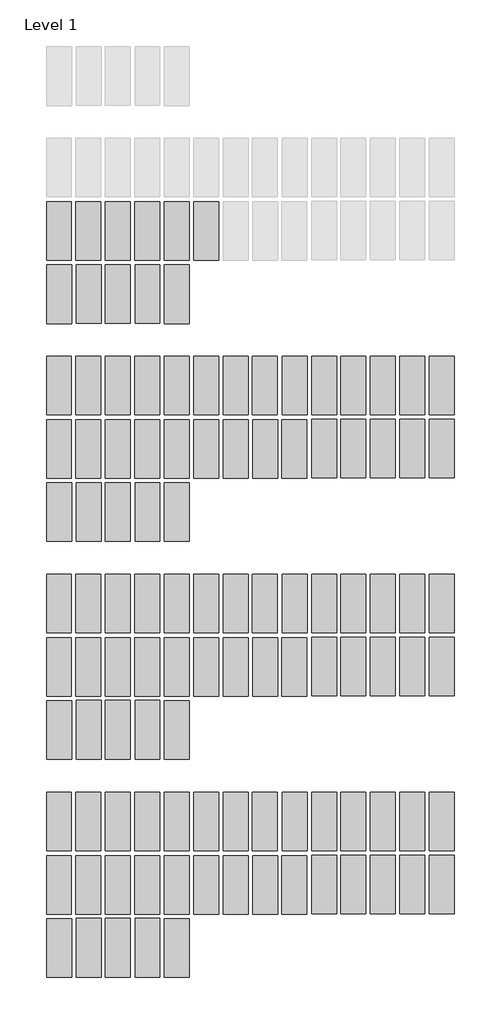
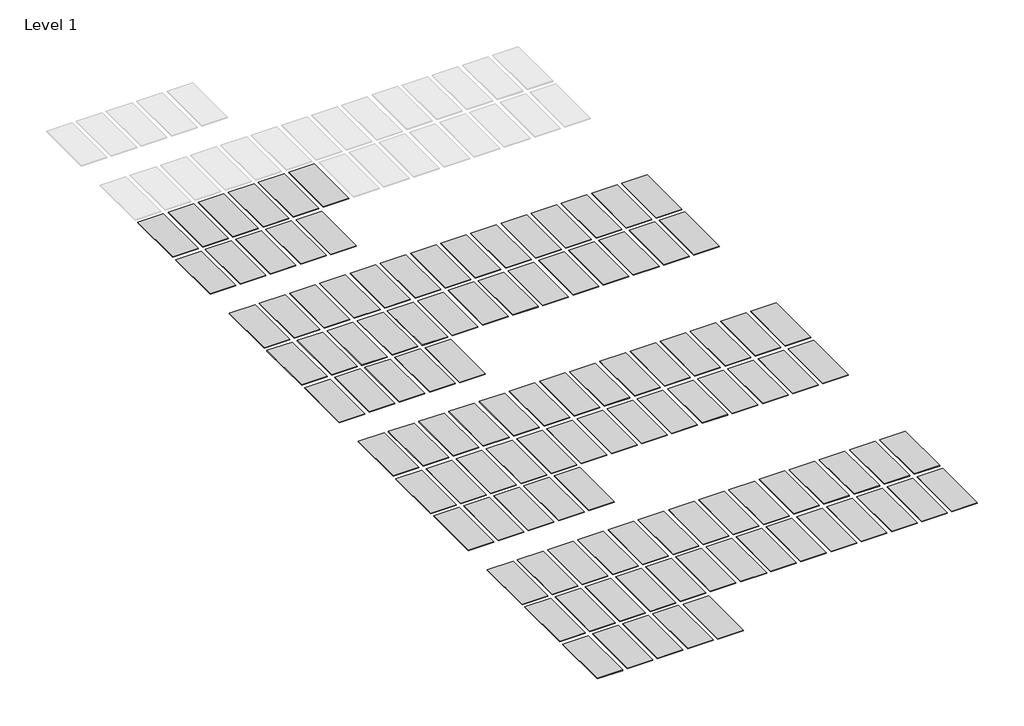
# One storey, part 1 of 3: 110 proxies.
"""IFC4 building model written with IfcOpenShell, lengths in millimetres."""

import ifcopenshell
import ifcopenshell.guid

model = None  # the IFC model being written
_history = None  # IfcOwnerHistory: only IFC2X3 demands one
_inside = {}  # id of a spatial element -> (the spatial element, [elements in it])
_under = {}  # id of a project, library or spatial element -> (it, [spatial elements below it])
_declared = {}  # id of a project -> (the project, [libraries it declares])
_typed = {}  # id of a type object -> (the type object, [elements of that type])
_made_of = {}  # id of a material, layer set ... -> (it, [elements and type objects made of it])


def new_model(schema):
    """Start an empty IFC model of exactly this schema.

    Asked for "IFC4X3", IfcOpenShell would pick the latest addendum, in which some entities
    have other attributes; the version numbers below select the first issue.
    IFC2X3 requires an IfcOwnerHistory on every rooted entity: one is made here for all.
    """
    global model, _history
    if schema == "IFC4X3":
        model = ifcopenshell.file(schema_version=(4, 3, 0, 0))
    else:
        model = ifcopenshell.file(schema=schema)
    _inside.clear()
    _under.clear()
    _declared.clear()
    _typed.clear()
    _made_of.clear()
    _history = None
    if model.schema == "IFC2X3":
        org = make("IfcOrganization", Name="unknown")
        user = make(
            "IfcPersonAndOrganization",
            ThePerson=make("IfcPerson", FamilyName="unknown"),
            TheOrganization=org,
        )
        app = make(
            "IfcApplication",
            ApplicationDeveloper=org,
            Version="unknown",
            ApplicationFullName="unknown",
            ApplicationIdentifier="unknown",
        )
        _history = make(
            "IfcOwnerHistory",
            OwningUser=user,
            OwningApplication=app,
            ChangeAction="ADDED",
            CreationDate=0,
        )
    return model


def make(cls, **values):
    """One entity of the class cls with the attributes given. An attribute that is None is left unset."""
    return model.create_entity(
        cls, **{name: value for name, value in values.items() if value is not None}
    )


def rooted(cls, **values):
    """An entity with a GlobalId (a new one), such as an element, a storey or a relation."""
    return make(cls, GlobalId=ifcopenshell.guid.new(), OwnerHistory=_history, **values)


def si_unit(unit_type, name, prefix=None):
    """IfcSIUnit, for example si_unit("LENGTHUNIT", "METRE", prefix="MILLI")."""
    return make("IfcSIUnit", UnitType=unit_type, Prefix=prefix, Name=name)


def assignment(units):
    """IfcUnitAssignment: the units of a project."""
    return None if units is None else make("IfcUnitAssignment", Units=units)


def point(xyz):
    """IfcCartesianPoint."""
    return None if xyz is None else make("IfcCartesianPoint", Coordinates=xyz)


def direction(xyz):
    """IfcDirection."""
    return None if xyz is None else make("IfcDirection", DirectionRatios=xyz)


def frame(location, z_axis=None, x_axis=None):
    """IfcAxis2Placement3D, a coordinate frame: its origin and axes. An axis left out is left unset."""
    return make(
        "IfcAxis2Placement3D",
        Location=point(location),
        Axis=direction(z_axis),
        RefDirection=direction(x_axis),
    )


def origin():
    """The frame at (0, 0, 0) with its axes left unset."""
    return frame((0.0, 0.0, 0.0))


def origin_with_axes():
    """The frame at (0, 0, 0) with the z axis (0, 0, 1) and the x axis (1, 0, 0) written out."""
    return frame((0.0, 0.0, 0.0), z_axis=(0.0, 0.0, 1.0), x_axis=(1.0, 0.0, 0.0))


def place(relative_to, where):
    """IfcLocalPlacement: puts the frame where relative to a parent placement (None: the world)."""
    return make(
        "IfcLocalPlacement", PlacementRelTo=relative_to, RelativePlacement=where
    )


def context(
    kind, dimensions, precision=None, world=None, true_north=None, identifier=None
):
    """IfcGeometricRepresentationContext, for example the 3D "Model" context."""
    return make(
        "IfcGeometricRepresentationContext",
        ContextIdentifier=identifier,
        ContextType=kind,
        CoordinateSpaceDimension=dimensions,
        Precision=precision,
        WorldCoordinateSystem=world,
        TrueNorth=true_north,
    )


def project(units=None, contexts=None):
    """IfcProject with its units and contexts."""
    return rooted(
        "IfcProject",
        Name="project",
        RepresentationContexts=contexts,
        UnitsInContext=assignment(units),
    )


def spatial(cls, under=None, at=None, **own):
    """A site, building, storey or space (cls), placed at a placement, below another one or the project."""
    s = rooted(cls, ObjectPlacement=at, **own)
    if under is not None:
        _under.setdefault(under.id(), (under, []))[1].append(s)
    return s


def polyline(points):
    """IfcPolyline through the points."""
    return make("IfcPolyline", Points=[point(p) for p in points])


def outline(outer, holes=None, kind="AREA"):
    """IfcArbitraryClosedProfileDef: a profile drawn as a closed curve; with holes, ...WithVoids."""
    if holes is None:
        return make("IfcArbitraryClosedProfileDef", ProfileType=kind, OuterCurve=outer)
    return make(
        "IfcArbitraryProfileDefWithVoids",
        ProfileType=kind,
        OuterCurve=outer,
        InnerCurves=holes,
    )


def extrude(swept, where, along, depth):
    """IfcExtrudedAreaSolid: the profile swept, set in the frame where, extruded along a direction by depth."""
    return make(
        "IfcExtrudedAreaSolid",
        SweptArea=swept,
        Position=where,
        ExtrudedDirection=direction(along),
        Depth=depth,
    )


def shape(context_of_items, identifier, shape_type, items):
    """IfcShapeRepresentation: the items that make up one representation, for example the "Body"."""
    return make(
        "IfcShapeRepresentation",
        ContextOfItems=context_of_items,
        RepresentationIdentifier=identifier,
        RepresentationType=shape_type,
        Items=items,
    )


def source(mapping_origin, context_of_items, identifier, shape_type, items):
    """IfcRepresentationMap: a shape defined once, which mapped items show again and again."""
    return make(
        "IfcRepresentationMap",
        MappingOrigin=mapping_origin,
        MappedRepresentation=shape(context_of_items, identifier, shape_type, items),
    )


def transform(
    local_origin,
    x_axis=None,
    y_axis=None,
    z_axis=None,
    scale=None,
    scale2=None,
    scale3=None,
    uniform=True,
):
    """IfcCartesianTransformationOperator3D, or its non-uniform kind. x_axis, y_axis, z_axis: its Axis1, 2, 3."""
    if uniform:
        return make(
            "IfcCartesianTransformationOperator3D",
            Axis1=direction(x_axis),
            Axis2=direction(y_axis),
            LocalOrigin=point(local_origin),
            Scale=scale,
            Axis3=direction(z_axis),
        )
    return make(
        "IfcCartesianTransformationOperator3DnonUniform",
        Axis1=direction(x_axis),
        Axis2=direction(y_axis),
        LocalOrigin=point(local_origin),
        Scale=scale,
        Axis3=direction(z_axis),
        Scale2=scale2,
        Scale3=scale3,
    )


def mapped(mapping_source, mapping_target):
    """IfcMappedItem: shows the shape of a source again, moved by a transform."""
    return make(
        "IfcMappedItem", MappingSource=mapping_source, MappingTarget=mapping_target
    )


def made_of(thing, what):
    """Note that an element or type object is made of a material, layer set ...; save() writes the relation."""
    if what is not None:
        _made_of.setdefault(what.id(), (what, []))[1].append(thing)
    return thing


def element(
    cls,
    number,
    at=None,
    inside=None,
    cuts=None,
    type_object=None,
    material=None,
    context=None,
    identifier="Body",
    shape_type=None,
    held_by="IfcProductDefinitionShape",
    body=None,
    shapes=None,
    **own,
):
    """One element of the class cls, such as IfcWall. Its Tag is "e" and its number.

    at: its placement. inside: the storey or other place that contains it. cuts: it is an
    opening in that element (IfcRelVoidsElement). A single representation is given by context,
    identifier, shape_type and body (its items); several are given by shapes. held_by: the class
    of the entity that holds the representations. save() writes the other relations.
    """
    e = rooted(cls, Tag="e%d" % number, ObjectPlacement=at, **own)
    if body is not None:
        shapes = [shape(context, identifier, shape_type, body)]
    if shapes is not None:
        e.Representation = make(held_by, Representations=shapes)
    if inside is not None:
        _inside.setdefault(inside.id(), (inside, []))[1].append(e)
    if cuts is not None:
        rooted(
            "IfcRelVoidsElement", RelatingBuildingElement=cuts, RelatedOpeningElement=e
        )
    if type_object is not None:
        _typed.setdefault(type_object.id(), (type_object, []))[1].append(e)
    return made_of(e, material)


def aggregate(whole, parts):
    """IfcRelAggregates: a whole, such as a stair, and the parts it consists of."""
    return rooted("IfcRelAggregates", RelatingObject=whole, RelatedObjects=parts)


def save(model, path):
    """Write the relations noted so far, then the file.

    IfcRelAggregates (storeys below a building ...), IfcRelContainedInSpatialStructure (elements
    in a storey), IfcRelDefinesByType, IfcRelAssociatesMaterial and IfcRelDeclares: one each for
    every whole, place, type object, material and project.
    """
    for whole, parts in _under.values():
        aggregate(whole, parts)
    for where, things in _inside.values():
        rooted(
            "IfcRelContainedInSpatialStructure",
            RelatedElements=things,
            RelatingStructure=where,
        )
    for kind, things in _typed.values():
        rooted("IfcRelDefinesByType", RelatedObjects=things, RelatingType=kind)
    for what, things in _made_of.values():
        rooted("IfcRelAssociatesMaterial", RelatedObjects=things, RelatingMaterial=what)
    for by, libraries in _declared.values():
        rooted("IfcRelDeclares", RelatingContext=by, RelatedDefinitions=libraries)
    model.write(path)


def materialsample_type_1_ed131d8e(model_context):
    return source(origin(), model_context, "Body", "SweptSolid", [
        extrude(outline(polyline([(1176.0974335, 20.0569203), (7.6974335, 20.0569203), (7.6974335, 2763.2569203), (1176.0974335, 2763.2569203), (1176.0974335, 20.0569203)])), origin_with_axes(), (0.0, 0.0, 1.0), 25.4),
    ])


model = new_model("IFC4")

# Units and contexts
model_context = context("Model", 3, world=origin())
ifc_project = project(units=[si_unit("LENGTHUNIT", "METRE", prefix="MILLI")], contexts=[model_context])

# Site, building, storey
site = spatial("IfcSite", under=ifc_project)
building = spatial("IfcBuilding", under=site)
storey = spatial("IfcBuildingStorey", under=building, Name="Level 1", Elevation=0.0)

# Proxies
placement = place(None, origin())
materialsample_type_1_shape = materialsample_type_1_ed131d8e(model_context)
element("IfcBuildingElementProxy", 1, Name="MaterialSample : Type 1", ObjectType="MaterialSample : Type 1", at=placement, inside=storey, context=model_context, shape_type="MappedRepresentation", body=[
    mapped(materialsample_type_1_shape, transform((6888.7897338, -76575.6569203, 0.0), x_axis=(1.0, 0.0, 0.0), y_axis=(0.0, 1.0, 0.0), z_axis=(0.0, 0.0, 1.0))),
])
element("IfcBuildingElementProxy", 2, Name="MaterialSample : Type 1", ObjectType="MaterialSample : Type 1", at=placement, inside=storey, context=model_context, shape_type="MappedRepresentation", body=[
    mapped(materialsample_type_1_shape, transform((5509.4923004, -76575.6569203, 0.0), x_axis=(1.0, 0.0, 0.0), y_axis=(0.0, 1.0, 0.0), z_axis=(0.0, 0.0, 1.0))),
])
element("IfcBuildingElementProxy", 3, Name="MaterialSample : Type 1", ObjectType="MaterialSample : Type 1", at=placement, inside=storey, context=model_context, shape_type="MappedRepresentation", body=[
    mapped(materialsample_type_1_shape, transform((4137.8923004, -76575.6569203, 0.0), x_axis=(1.0, 0.0, 0.0), y_axis=(0.0, 1.0, 0.0), z_axis=(0.0, 0.0, 1.0))),
])
element("IfcBuildingElementProxy", 4, Name="MaterialSample : Type 1", ObjectType="MaterialSample : Type 1", at=placement, inside=storey, context=model_context, shape_type="MappedRepresentation", body=[
    mapped(materialsample_type_1_shape, transform((5517.1897338, -79542.1138407, 0.0), x_axis=(1.0, 0.0, 0.0), y_axis=(0.0, 1.0, 0.0), z_axis=(0.0, 0.0, 1.0))),
])
element("IfcBuildingElementProxy", 5, Name="MaterialSample : Type 1", ObjectType="MaterialSample : Type 1", at=placement, inside=storey, context=model_context, shape_type="MappedRepresentation", body=[
    mapped(materialsample_type_1_shape, transform((4145.5897338, -79522.0569203, 0.0), x_axis=(1.0, 0.0, 0.0), y_axis=(0.0, 1.0, 0.0), z_axis=(0.0, 0.0, 1.0))),
])
element("IfcBuildingElementProxy", 6, Name="MaterialSample : Type 1", ObjectType="MaterialSample : Type 1", at=placement, inside=storey, context=model_context, shape_type="MappedRepresentation", body=[
    mapped(materialsample_type_1_shape, transform((2750.8974335, -76575.6569203, 0.0), x_axis=(1.0, 0.0, 0.0), y_axis=(0.0, 1.0, 0.0), z_axis=(0.0, 0.0, 1.0))),
])
element("IfcBuildingElementProxy", 7, Name="MaterialSample : Type 1", ObjectType="MaterialSample : Type 1", at=placement, inside=storey, context=model_context, shape_type="MappedRepresentation", body=[
    mapped(materialsample_type_1_shape, transform((2758.5948669, -79522.0569203, 0.0), x_axis=(1.0, 0.0, 0.0), y_axis=(0.0, 1.0, 0.0), z_axis=(0.0, 0.0, 1.0))),
])
element("IfcBuildingElementProxy", 8, Name="MaterialSample : Type 1", ObjectType="MaterialSample : Type 1", at=placement, inside=storey, context=model_context, shape_type="MappedRepresentation", body=[
    mapped(materialsample_type_1_shape, transform((1379.2974335, -76575.6569203, 0.0), x_axis=(1.0, 0.0, 0.0), y_axis=(0.0, 1.0, 0.0), z_axis=(0.0, 0.0, 1.0))),
])
element("IfcBuildingElementProxy", 9, Name="MaterialSample : Type 1", ObjectType="MaterialSample : Type 1", at=placement, inside=storey, context=model_context, shape_type="MappedRepresentation", body=[
    mapped(materialsample_type_1_shape, transform((1386.9948669, -79522.0569203, 0.0), x_axis=(1.0, 0.0, 0.0), y_axis=(0.0, 1.0, 0.0), z_axis=(0.0, 0.0, 1.0))),
])
element("IfcBuildingElementProxy", 10, Name="MaterialSample : Type 1", ObjectType="MaterialSample : Type 1", at=placement, inside=storey, context=model_context, shape_type="MappedRepresentation", body=[
    mapped(materialsample_type_1_shape, transform((0.0, -76575.6569203, 0.0), x_axis=(1.0, 0.0, 0.0), y_axis=(0.0, 1.0, 0.0), z_axis=(0.0, 0.0, 1.0))),
])
element("IfcBuildingElementProxy", 11, Name="MaterialSample : Type 1", ObjectType="MaterialSample : Type 1", at=placement, inside=storey, context=model_context, shape_type="MappedRepresentation", body=[
    mapped(materialsample_type_1_shape, transform((7.6974335, -79542.1138407, 0.0), x_axis=(1.0, 0.0, 0.0), y_axis=(0.0, 1.0, 0.0), z_axis=(0.0, 0.0, 1.0))),
])
element("IfcBuildingElementProxy", 12, Name="MaterialSample : Type 1", ObjectType="MaterialSample : Type 1", at=placement, inside=storey, context=model_context, shape_type="MappedRepresentation", body=[
    mapped(materialsample_type_1_shape, transform((0.0, -83820.0, 0.0), x_axis=(1.0, 0.0, 0.0), y_axis=(0.0, 1.0, 0.0), z_axis=(0.0, 0.0, 1.0))),
])
element("IfcBuildingElementProxy", 13, Name="MaterialSample : Type 1", ObjectType="MaterialSample : Type 1", at=placement, inside=storey, context=model_context, shape_type="MappedRepresentation", body=[
    mapped(materialsample_type_1_shape, transform((1371.6, -83820.0, 0.0), x_axis=(1.0, 0.0, 0.0), y_axis=(0.0, 1.0, 0.0), z_axis=(0.0, 0.0, 1.0))),
])
element("IfcBuildingElementProxy", 14, Name="MaterialSample : Type 1", ObjectType="MaterialSample : Type 1", at=placement, inside=storey, context=model_context, shape_type="MappedRepresentation", body=[
    mapped(materialsample_type_1_shape, transform((2750.8974335, -83820.0, 0.0), x_axis=(1.0, 0.0, 0.0), y_axis=(0.0, 1.0, 0.0), z_axis=(0.0, 0.0, 1.0))),
])
element("IfcBuildingElementProxy", 15, Name="MaterialSample : Type 1", ObjectType="MaterialSample : Type 1", at=placement, inside=storey, context=model_context, shape_type="MappedRepresentation", body=[
    mapped(materialsample_type_1_shape, transform((4130.1948669, -83820.0, 0.0), x_axis=(1.0, 0.0, 0.0), y_axis=(0.0, 1.0, 0.0), z_axis=(0.0, 0.0, 1.0))),
])
element("IfcBuildingElementProxy", 16, Name="MaterialSample : Type 1", ObjectType="MaterialSample : Type 1", at=placement, inside=storey, context=model_context, shape_type="MappedRepresentation", body=[
    mapped(materialsample_type_1_shape, transform((5509.4923004, -83820.0, 0.0), x_axis=(1.0, 0.0, 0.0), y_axis=(0.0, 1.0, 0.0), z_axis=(0.0, 0.0, 1.0))),
])
element("IfcBuildingElementProxy", 17, Name="MaterialSample : Type 1", ObjectType="MaterialSample : Type 1", at=placement, inside=storey, context=model_context, shape_type="MappedRepresentation", body=[
    mapped(materialsample_type_1_shape, transform((6896.4871673, -83820.0, 0.0), x_axis=(1.0, 0.0, 0.0), y_axis=(0.0, 1.0, 0.0), z_axis=(0.0, 0.0, 1.0))),
])
element("IfcBuildingElementProxy", 18, Name="MaterialSample : Type 1", ObjectType="MaterialSample : Type 1", at=placement, inside=storey, context=model_context, shape_type="MappedRepresentation", body=[
    mapped(materialsample_type_1_shape, transform((8275.7846008, -83820.0, 0.0), x_axis=(1.0, 0.0, 0.0), y_axis=(0.0, 1.0, 0.0), z_axis=(0.0, 0.0, 1.0))),
])
element("IfcBuildingElementProxy", 19, Name="MaterialSample : Type 1", ObjectType="MaterialSample : Type 1", at=placement, inside=storey, context=model_context, shape_type="MappedRepresentation", body=[
    mapped(materialsample_type_1_shape, transform((9647.3846008, -83820.0, 0.0), x_axis=(1.0, 0.0, 0.0), y_axis=(0.0, 1.0, 0.0), z_axis=(0.0, 0.0, 1.0))),
])
element("IfcBuildingElementProxy", 20, Name="MaterialSample : Type 1", ObjectType="MaterialSample : Type 1", at=placement, inside=storey, context=model_context, shape_type="MappedRepresentation", body=[
    mapped(materialsample_type_1_shape, transform((11034.3794677, -83820.0, 0.0), x_axis=(1.0, 0.0, 0.0), y_axis=(0.0, 1.0, 0.0), z_axis=(0.0, 0.0, 1.0))),
])
element("IfcBuildingElementProxy", 21, Name="MaterialSample : Type 1", ObjectType="MaterialSample : Type 1", at=placement, inside=storey, context=model_context, shape_type="MappedRepresentation", body=[
    mapped(materialsample_type_1_shape, transform((12421.3743346, -83809.9715398, 0.0), x_axis=(1.0, 0.0, 0.0), y_axis=(0.0, 1.0, 0.0), z_axis=(0.0, 0.0, 1.0))),
])
element("IfcBuildingElementProxy", 22, Name="MaterialSample : Type 1", ObjectType="MaterialSample : Type 1", at=placement, inside=storey, context=model_context, shape_type="MappedRepresentation", body=[
    mapped(materialsample_type_1_shape, transform((13792.9743346, -83809.9715398, 0.0), x_axis=(1.0, 0.0, 0.0), y_axis=(0.0, 1.0, 0.0), z_axis=(0.0, 0.0, 1.0))),
])
element("IfcBuildingElementProxy", 23, Name="MaterialSample : Type 1", ObjectType="MaterialSample : Type 1", at=placement, inside=storey, context=model_context, shape_type="MappedRepresentation", body=[
    mapped(materialsample_type_1_shape, transform((15172.271768, -83809.9715398, 0.0), x_axis=(1.0, 0.0, 0.0), y_axis=(0.0, 1.0, 0.0), z_axis=(0.0, 0.0, 1.0))),
])
element("IfcBuildingElementProxy", 24, Name="MaterialSample : Type 1", ObjectType="MaterialSample : Type 1", at=placement, inside=storey, context=model_context, shape_type="MappedRepresentation", body=[
    mapped(materialsample_type_1_shape, transform((16551.5692015, -83809.9715398, 0.0), x_axis=(1.0, 0.0, 0.0), y_axis=(0.0, 1.0, 0.0), z_axis=(0.0, 0.0, 1.0))),
])
element("IfcBuildingElementProxy", 25, Name="MaterialSample : Type 1", ObjectType="MaterialSample : Type 1", at=placement, inside=storey, context=model_context, shape_type="MappedRepresentation", body=[
    mapped(materialsample_type_1_shape, transform((17930.866635, -83809.9715398, 0.0), x_axis=(1.0, 0.0, 0.0), y_axis=(0.0, 1.0, 0.0), z_axis=(0.0, 0.0, 1.0))),
])
element("IfcBuildingElementProxy", 26, Name="MaterialSample : Type 1", ObjectType="MaterialSample : Type 1", at=placement, inside=storey, context=model_context, shape_type="MappedRepresentation", body=[
    mapped(materialsample_type_1_shape, transform((17930.866635, -86776.4284602, 0.0), x_axis=(1.0, 0.0, 0.0), y_axis=(0.0, 1.0, 0.0), z_axis=(0.0, 0.0, 1.0))),
])
element("IfcBuildingElementProxy", 27, Name="MaterialSample : Type 1", ObjectType="MaterialSample : Type 1", at=placement, inside=storey, context=model_context, shape_type="MappedRepresentation", body=[
    mapped(materialsample_type_1_shape, transform((16551.5692015, -86776.4284602, 0.0), x_axis=(1.0, 0.0, 0.0), y_axis=(0.0, 1.0, 0.0), z_axis=(0.0, 0.0, 1.0))),
])
element("IfcBuildingElementProxy", 28, Name="MaterialSample : Type 1", ObjectType="MaterialSample : Type 1", at=placement, inside=storey, context=model_context, shape_type="MappedRepresentation", body=[
    mapped(materialsample_type_1_shape, transform((15172.271768, -86776.4284602, 0.0), x_axis=(1.0, 0.0, 0.0), y_axis=(0.0, 1.0, 0.0), z_axis=(0.0, 0.0, 1.0))),
])
element("IfcBuildingElementProxy", 29, Name="MaterialSample : Type 1", ObjectType="MaterialSample : Type 1", at=placement, inside=storey, context=model_context, shape_type="MappedRepresentation", body=[
    mapped(materialsample_type_1_shape, transform((13792.9743346, -86776.4284602, 0.0), x_axis=(1.0, 0.0, 0.0), y_axis=(0.0, 1.0, 0.0), z_axis=(0.0, 0.0, 1.0))),
])
element("IfcBuildingElementProxy", 30, Name="MaterialSample : Type 1", ObjectType="MaterialSample : Type 1", at=placement, inside=storey, context=model_context, shape_type="MappedRepresentation", body=[
    mapped(materialsample_type_1_shape, transform((12421.3743346, -86776.4284602, 0.0), x_axis=(1.0, 0.0, 0.0), y_axis=(0.0, 1.0, 0.0), z_axis=(0.0, 0.0, 1.0))),
])
element("IfcBuildingElementProxy", 31, Name="MaterialSample : Type 1", ObjectType="MaterialSample : Type 1", at=placement, inside=storey, context=model_context, shape_type="MappedRepresentation", body=[
    mapped(materialsample_type_1_shape, transform((11026.6820342, -86786.4569203, 0.0), x_axis=(1.0, 0.0, 0.0), y_axis=(0.0, 1.0, 0.0), z_axis=(0.0, 0.0, 1.0))),
])
element("IfcBuildingElementProxy", 32, Name="MaterialSample : Type 1", ObjectType="MaterialSample : Type 1", at=placement, inside=storey, context=model_context, shape_type="MappedRepresentation", body=[
    mapped(materialsample_type_1_shape, transform((9655.0820342, -86786.4569203, 0.0), x_axis=(1.0, 0.0, 0.0), y_axis=(0.0, 1.0, 0.0), z_axis=(0.0, 0.0, 1.0))),
])
element("IfcBuildingElementProxy", 33, Name="MaterialSample : Type 1", ObjectType="MaterialSample : Type 1", at=placement, inside=storey, context=model_context, shape_type="MappedRepresentation", body=[
    mapped(materialsample_type_1_shape, transform((8285.7897338, -86786.4569203, 0.0), x_axis=(1.0, 0.0, 0.0), y_axis=(0.0, 1.0, 0.0), z_axis=(0.0, 0.0, 1.0))),
])
element("IfcBuildingElementProxy", 34, Name="MaterialSample : Type 1", ObjectType="MaterialSample : Type 1", at=placement, inside=storey, context=model_context, shape_type="MappedRepresentation", body=[
    mapped(materialsample_type_1_shape, transform((6888.7897338, -86786.4569203, 0.0), x_axis=(1.0, 0.0, 0.0), y_axis=(0.0, 1.0, 0.0), z_axis=(0.0, 0.0, 1.0))),
])
element("IfcBuildingElementProxy", 35, Name="MaterialSample : Type 1", ObjectType="MaterialSample : Type 1", at=placement, inside=storey, context=model_context, shape_type="MappedRepresentation", body=[
    mapped(materialsample_type_1_shape, transform((5509.4923004, -86786.4569203, 0.0), x_axis=(1.0, 0.0, 0.0), y_axis=(0.0, 1.0, 0.0), z_axis=(0.0, 0.0, 1.0))),
])
element("IfcBuildingElementProxy", 36, Name="MaterialSample : Type 1", ObjectType="MaterialSample : Type 1", at=placement, inside=storey, context=model_context, shape_type="MappedRepresentation", body=[
    mapped(materialsample_type_1_shape, transform((4137.8923004, -86786.4569203, 0.0), x_axis=(1.0, 0.0, 0.0), y_axis=(0.0, 1.0, 0.0), z_axis=(0.0, 0.0, 1.0))),
])
element("IfcBuildingElementProxy", 37, Name="MaterialSample : Type 1", ObjectType="MaterialSample : Type 1", at=placement, inside=storey, context=model_context, shape_type="MappedRepresentation", body=[
    mapped(materialsample_type_1_shape, transform((5517.1897338, -89752.9138407, 0.0), x_axis=(1.0, 0.0, 0.0), y_axis=(0.0, 1.0, 0.0), z_axis=(0.0, 0.0, 1.0))),
])
element("IfcBuildingElementProxy", 38, Name="MaterialSample : Type 1", ObjectType="MaterialSample : Type 1", at=placement, inside=storey, context=model_context, shape_type="MappedRepresentation", body=[
    mapped(materialsample_type_1_shape, transform((4145.5897338, -89732.8569203, 0.0), x_axis=(1.0, 0.0, 0.0), y_axis=(0.0, 1.0, 0.0), z_axis=(0.0, 0.0, 1.0))),
])
element("IfcBuildingElementProxy", 39, Name="MaterialSample : Type 1", ObjectType="MaterialSample : Type 1", at=placement, inside=storey, context=model_context, shape_type="MappedRepresentation", body=[
    mapped(materialsample_type_1_shape, transform((2750.8974335, -86786.4569203, 0.0), x_axis=(1.0, 0.0, 0.0), y_axis=(0.0, 1.0, 0.0), z_axis=(0.0, 0.0, 1.0))),
])
element("IfcBuildingElementProxy", 40, Name="MaterialSample : Type 1", ObjectType="MaterialSample : Type 1", at=placement, inside=storey, context=model_context, shape_type="MappedRepresentation", body=[
    mapped(materialsample_type_1_shape, transform((2758.5948669, -89732.8569203, 0.0), x_axis=(1.0, 0.0, 0.0), y_axis=(0.0, 1.0, 0.0), z_axis=(0.0, 0.0, 1.0))),
])
element("IfcBuildingElementProxy", 41, Name="MaterialSample : Type 1", ObjectType="MaterialSample : Type 1", at=placement, inside=storey, context=model_context, shape_type="MappedRepresentation", body=[
    mapped(materialsample_type_1_shape, transform((1379.2974335, -86786.4569203, 0.0), x_axis=(1.0, 0.0, 0.0), y_axis=(0.0, 1.0, 0.0), z_axis=(0.0, 0.0, 1.0))),
])
element("IfcBuildingElementProxy", 42, Name="MaterialSample : Type 1", ObjectType="MaterialSample : Type 1", at=placement, inside=storey, context=model_context, shape_type="MappedRepresentation", body=[
    mapped(materialsample_type_1_shape, transform((1386.9948669, -89732.8569203, 0.0), x_axis=(1.0, 0.0, 0.0), y_axis=(0.0, 1.0, 0.0), z_axis=(0.0, 0.0, 1.0))),
])
element("IfcBuildingElementProxy", 43, Name="MaterialSample : Type 1", ObjectType="MaterialSample : Type 1", at=placement, inside=storey, context=model_context, shape_type="MappedRepresentation", body=[
    mapped(materialsample_type_1_shape, transform((0.0, -86786.4569203, 0.0), x_axis=(1.0, 0.0, 0.0), y_axis=(0.0, 1.0, 0.0), z_axis=(0.0, 0.0, 1.0))),
])
element("IfcBuildingElementProxy", 44, Name="MaterialSample : Type 1", ObjectType="MaterialSample : Type 1", at=placement, inside=storey, context=model_context, shape_type="MappedRepresentation", body=[
    mapped(materialsample_type_1_shape, transform((7.6974335, -89752.9138407, 0.0), x_axis=(1.0, 0.0, 0.0), y_axis=(0.0, 1.0, 0.0), z_axis=(0.0, 0.0, 1.0))),
])
element("IfcBuildingElementProxy", 45, Name="MaterialSample : Type 1", ObjectType="MaterialSample : Type 1", at=placement, inside=storey, context=model_context, shape_type="MappedRepresentation", body=[
    mapped(materialsample_type_1_shape, transform((0.0, -94030.8, 0.0), x_axis=(1.0, 0.0, 0.0), y_axis=(0.0, 1.0, 0.0), z_axis=(0.0, 0.0, 1.0))),
])
element("IfcBuildingElementProxy", 46, Name="MaterialSample : Type 1", ObjectType="MaterialSample : Type 1", at=placement, inside=storey, context=model_context, shape_type="MappedRepresentation", body=[
    mapped(materialsample_type_1_shape, transform((1371.6, -94030.8, 0.0), x_axis=(1.0, 0.0, 0.0), y_axis=(0.0, 1.0, 0.0), z_axis=(0.0, 0.0, 1.0))),
])
element("IfcBuildingElementProxy", 47, Name="MaterialSample : Type 1", ObjectType="MaterialSample : Type 1", at=placement, inside=storey, context=model_context, shape_type="MappedRepresentation", body=[
    mapped(materialsample_type_1_shape, transform((2750.8974335, -94030.8, 0.0), x_axis=(1.0, 0.0, 0.0), y_axis=(0.0, 1.0, 0.0), z_axis=(0.0, 0.0, 1.0))),
])
element("IfcBuildingElementProxy", 48, Name="MaterialSample : Type 1", ObjectType="MaterialSample : Type 1", at=placement, inside=storey, context=model_context, shape_type="MappedRepresentation", body=[
    mapped(materialsample_type_1_shape, transform((4130.1948669, -94030.8, 0.0), x_axis=(1.0, 0.0, 0.0), y_axis=(0.0, 1.0, 0.0), z_axis=(0.0, 0.0, 1.0))),
])
element("IfcBuildingElementProxy", 49, Name="MaterialSample : Type 1", ObjectType="MaterialSample : Type 1", at=placement, inside=storey, context=model_context, shape_type="MappedRepresentation", body=[
    mapped(materialsample_type_1_shape, transform((5509.4923004, -94030.8, 0.0), x_axis=(1.0, 0.0, 0.0), y_axis=(0.0, 1.0, 0.0), z_axis=(0.0, 0.0, 1.0))),
])
element("IfcBuildingElementProxy", 50, Name="MaterialSample : Type 1", ObjectType="MaterialSample : Type 1", at=placement, inside=storey, context=model_context, shape_type="MappedRepresentation", body=[
    mapped(materialsample_type_1_shape, transform((6896.4871673, -94030.8, 0.0), x_axis=(1.0, 0.0, 0.0), y_axis=(0.0, 1.0, 0.0), z_axis=(0.0, 0.0, 1.0))),
])
element("IfcBuildingElementProxy", 51, Name="MaterialSample : Type 1", ObjectType="MaterialSample : Type 1", at=placement, inside=storey, context=model_context, shape_type="MappedRepresentation", body=[
    mapped(materialsample_type_1_shape, transform((8275.7846007, -94030.8, 0.0), x_axis=(1.0, 0.0, 0.0), y_axis=(0.0, 1.0, 0.0), z_axis=(0.0, 0.0, 1.0))),
])
element("IfcBuildingElementProxy", 52, Name="MaterialSample : Type 1", ObjectType="MaterialSample : Type 1", at=placement, inside=storey, context=model_context, shape_type="MappedRepresentation", body=[
    mapped(materialsample_type_1_shape, transform((9647.3846007, -94030.8, 0.0), x_axis=(1.0, 0.0, 0.0), y_axis=(0.0, 1.0, 0.0), z_axis=(0.0, 0.0, 1.0))),
])
element("IfcBuildingElementProxy", 53, Name="MaterialSample : Type 1", ObjectType="MaterialSample : Type 1", at=placement, inside=storey, context=model_context, shape_type="MappedRepresentation", body=[
    mapped(materialsample_type_1_shape, transform((11034.3794677, -94030.8, 0.0), x_axis=(1.0, 0.0, 0.0), y_axis=(0.0, 1.0, 0.0), z_axis=(0.0, 0.0, 1.0))),
])
element("IfcBuildingElementProxy", 54, Name="MaterialSample : Type 1", ObjectType="MaterialSample : Type 1", at=placement, inside=storey, context=model_context, shape_type="MappedRepresentation", body=[
    mapped(materialsample_type_1_shape, transform((12421.3743346, -94020.7715398, 0.0), x_axis=(1.0, 0.0, 0.0), y_axis=(0.0, 1.0, 0.0), z_axis=(0.0, 0.0, 1.0))),
])
element("IfcBuildingElementProxy", 55, Name="MaterialSample : Type 1", ObjectType="MaterialSample : Type 1", at=placement, inside=storey, context=model_context, shape_type="MappedRepresentation", body=[
    mapped(materialsample_type_1_shape, transform((13792.9743346, -94020.7715398, 0.0), x_axis=(1.0, 0.0, 0.0), y_axis=(0.0, 1.0, 0.0), z_axis=(0.0, 0.0, 1.0))),
])
element("IfcBuildingElementProxy", 56, Name="MaterialSample : Type 1", ObjectType="MaterialSample : Type 1", at=placement, inside=storey, context=model_context, shape_type="MappedRepresentation", body=[
    mapped(materialsample_type_1_shape, transform((15172.271768, -94020.7715398, 0.0), x_axis=(1.0, 0.0, 0.0), y_axis=(0.0, 1.0, 0.0), z_axis=(0.0, 0.0, 1.0))),
])
element("IfcBuildingElementProxy", 57, Name="MaterialSample : Type 1", ObjectType="MaterialSample : Type 1", at=placement, inside=storey, context=model_context, shape_type="MappedRepresentation", body=[
    mapped(materialsample_type_1_shape, transform((16551.5692015, -94020.7715398, 0.0), x_axis=(1.0, 0.0, 0.0), y_axis=(0.0, 1.0, 0.0), z_axis=(0.0, 0.0, 1.0))),
])
element("IfcBuildingElementProxy", 58, Name="MaterialSample : Type 1", ObjectType="MaterialSample : Type 1", at=placement, inside=storey, context=model_context, shape_type="MappedRepresentation", body=[
    mapped(materialsample_type_1_shape, transform((17930.866635, -94020.7715398, 0.0), x_axis=(1.0, 0.0, 0.0), y_axis=(0.0, 1.0, 0.0), z_axis=(0.0, 0.0, 1.0))),
])
element("IfcBuildingElementProxy", 59, Name="MaterialSample : Type 1", ObjectType="MaterialSample : Type 1", at=placement, inside=storey, context=model_context, shape_type="MappedRepresentation", body=[
    mapped(materialsample_type_1_shape, transform((0.0, -96997.2569203, 0.0), x_axis=(1.0, 0.0, 0.0), y_axis=(0.0, 1.0, 0.0), z_axis=(0.0, 0.0, 1.0))),
])
element("IfcBuildingElementProxy", 60, Name="MaterialSample : Type 1", ObjectType="MaterialSample : Type 1", at=placement, inside=storey, context=model_context, shape_type="MappedRepresentation", body=[
    mapped(materialsample_type_1_shape, transform((1379.2974335, -96997.2569203, 0.0), x_axis=(1.0, 0.0, 0.0), y_axis=(0.0, 1.0, 0.0), z_axis=(0.0, 0.0, 1.0))),
])
element("IfcBuildingElementProxy", 61, Name="MaterialSample : Type 1", ObjectType="MaterialSample : Type 1", at=placement, inside=storey, context=model_context, shape_type="MappedRepresentation", body=[
    mapped(materialsample_type_1_shape, transform((2750.8974335, -96997.2569203, 0.0), x_axis=(1.0, 0.0, 0.0), y_axis=(0.0, 1.0, 0.0), z_axis=(0.0, 0.0, 1.0))),
])
element("IfcBuildingElementProxy", 62, Name="MaterialSample : Type 1", ObjectType="MaterialSample : Type 1", at=placement, inside=storey, context=model_context, shape_type="MappedRepresentation", body=[
    mapped(materialsample_type_1_shape, transform((4137.8923004, -96997.2569203, 0.0), x_axis=(1.0, 0.0, 0.0), y_axis=(0.0, 1.0, 0.0), z_axis=(0.0, 0.0, 1.0))),
])
element("IfcBuildingElementProxy", 63, Name="MaterialSample : Type 1", ObjectType="MaterialSample : Type 1", at=placement, inside=storey, context=model_context, shape_type="MappedRepresentation", body=[
    mapped(materialsample_type_1_shape, transform((5509.4923004, -96997.2569203, 0.0), x_axis=(1.0, 0.0, 0.0), y_axis=(0.0, 1.0, 0.0), z_axis=(0.0, 0.0, 1.0))),
])
element("IfcBuildingElementProxy", 64, Name="MaterialSample : Type 1", ObjectType="MaterialSample : Type 1", at=placement, inside=storey, context=model_context, shape_type="MappedRepresentation", body=[
    mapped(materialsample_type_1_shape, transform((6888.7897338, -96997.2569203, 0.0), x_axis=(1.0, 0.0, 0.0), y_axis=(0.0, 1.0, 0.0), z_axis=(0.0, 0.0, 1.0))),
])
element("IfcBuildingElementProxy", 65, Name="MaterialSample : Type 1", ObjectType="MaterialSample : Type 1", at=placement, inside=storey, context=model_context, shape_type="MappedRepresentation", body=[
    mapped(materialsample_type_1_shape, transform((8285.7897338, -96997.2569203, 0.0), x_axis=(1.0, 0.0, 0.0), y_axis=(0.0, 1.0, 0.0), z_axis=(0.0, 0.0, 1.0))),
])
element("IfcBuildingElementProxy", 66, Name="MaterialSample : Type 1", ObjectType="MaterialSample : Type 1", at=placement, inside=storey, context=model_context, shape_type="MappedRepresentation", body=[
    mapped(materialsample_type_1_shape, transform((9655.0820342, -96997.2569203, 0.0), x_axis=(1.0, 0.0, 0.0), y_axis=(0.0, 1.0, 0.0), z_axis=(0.0, 0.0, 1.0))),
])
element("IfcBuildingElementProxy", 67, Name="MaterialSample : Type 1", ObjectType="MaterialSample : Type 1", at=placement, inside=storey, context=model_context, shape_type="MappedRepresentation", body=[
    mapped(materialsample_type_1_shape, transform((11026.6820342, -96997.2569203, 0.0), x_axis=(1.0, 0.0, 0.0), y_axis=(0.0, 1.0, 0.0), z_axis=(0.0, 0.0, 1.0))),
])
element("IfcBuildingElementProxy", 68, Name="MaterialSample : Type 1", ObjectType="MaterialSample : Type 1", at=placement, inside=storey, context=model_context, shape_type="MappedRepresentation", body=[
    mapped(materialsample_type_1_shape, transform((12421.3743346, -96987.2284602, 0.0), x_axis=(1.0, 0.0, 0.0), y_axis=(0.0, 1.0, 0.0), z_axis=(0.0, 0.0, 1.0))),
])
element("IfcBuildingElementProxy", 69, Name="MaterialSample : Type 1", ObjectType="MaterialSample : Type 1", at=placement, inside=storey, context=model_context, shape_type="MappedRepresentation", body=[
    mapped(materialsample_type_1_shape, transform((13792.9743346, -96987.2284602, 0.0), x_axis=(1.0, 0.0, 0.0), y_axis=(0.0, 1.0, 0.0), z_axis=(0.0, 0.0, 1.0))),
])
element("IfcBuildingElementProxy", 70, Name="MaterialSample : Type 1", ObjectType="MaterialSample : Type 1", at=placement, inside=storey, context=model_context, shape_type="MappedRepresentation", body=[
    mapped(materialsample_type_1_shape, transform((15172.271768, -96987.2284602, 0.0), x_axis=(1.0, 0.0, 0.0), y_axis=(0.0, 1.0, 0.0), z_axis=(0.0, 0.0, 1.0))),
])
element("IfcBuildingElementProxy", 71, Name="MaterialSample : Type 1", ObjectType="MaterialSample : Type 1", at=placement, inside=storey, context=model_context, shape_type="MappedRepresentation", body=[
    mapped(materialsample_type_1_shape, transform((16551.5692015, -96987.2284602, 0.0), x_axis=(1.0, 0.0, 0.0), y_axis=(0.0, 1.0, 0.0), z_axis=(0.0, 0.0, 1.0))),
])
element("IfcBuildingElementProxy", 72, Name="MaterialSample : Type 1", ObjectType="MaterialSample : Type 1", at=placement, inside=storey, context=model_context, shape_type="MappedRepresentation", body=[
    mapped(materialsample_type_1_shape, transform((17930.866635, -96987.2284602, 0.0), x_axis=(1.0, 0.0, 0.0), y_axis=(0.0, 1.0, 0.0), z_axis=(0.0, 0.0, 1.0))),
])
element("IfcBuildingElementProxy", 73, Name="MaterialSample : Type 1", ObjectType="MaterialSample : Type 1", at=placement, inside=storey, context=model_context, shape_type="MappedRepresentation", body=[
    mapped(materialsample_type_1_shape, transform((5517.1897338, -99963.7138407, 0.0), x_axis=(1.0, 0.0, 0.0), y_axis=(0.0, 1.0, 0.0), z_axis=(0.0, 0.0, 1.0))),
])
element("IfcBuildingElementProxy", 74, Name="MaterialSample : Type 1", ObjectType="MaterialSample : Type 1", at=placement, inside=storey, context=model_context, shape_type="MappedRepresentation", body=[
    mapped(materialsample_type_1_shape, transform((4145.5897338, -99943.6569203, 0.0), x_axis=(1.0, 0.0, 0.0), y_axis=(0.0, 1.0, 0.0), z_axis=(0.0, 0.0, 1.0))),
])
element("IfcBuildingElementProxy", 75, Name="MaterialSample : Type 1", ObjectType="MaterialSample : Type 1", at=placement, inside=storey, context=model_context, shape_type="MappedRepresentation", body=[
    mapped(materialsample_type_1_shape, transform((2758.5948669, -99943.6569203, 0.0), x_axis=(1.0, 0.0, 0.0), y_axis=(0.0, 1.0, 0.0), z_axis=(0.0, 0.0, 1.0))),
])
element("IfcBuildingElementProxy", 76, Name="MaterialSample : Type 1", ObjectType="MaterialSample : Type 1", at=placement, inside=storey, context=model_context, shape_type="MappedRepresentation", body=[
    mapped(materialsample_type_1_shape, transform((1386.9948669, -99943.6569203, 0.0), x_axis=(1.0, 0.0, 0.0), y_axis=(0.0, 1.0, 0.0), z_axis=(0.0, 0.0, 1.0))),
])
element("IfcBuildingElementProxy", 77, Name="MaterialSample : Type 1", ObjectType="MaterialSample : Type 1", at=placement, inside=storey, context=model_context, shape_type="MappedRepresentation", body=[
    mapped(materialsample_type_1_shape, transform((7.6974335, -99963.7138407, 0.0), x_axis=(1.0, 0.0, 0.0), y_axis=(0.0, 1.0, 0.0), z_axis=(0.0, 0.0, 1.0))),
])
element("IfcBuildingElementProxy", 78, Name="MaterialSample : Type 1", ObjectType="MaterialSample : Type 1", at=placement, inside=storey, context=model_context, shape_type="MappedRepresentation", body=[
    mapped(materialsample_type_1_shape, transform((0.0, -104241.6, 0.0), x_axis=(1.0, 0.0, 0.0), y_axis=(0.0, 1.0, 0.0), z_axis=(0.0, 0.0, 1.0))),
])
element("IfcBuildingElementProxy", 79, Name="MaterialSample : Type 1", ObjectType="MaterialSample : Type 1", at=placement, inside=storey, context=model_context, shape_type="MappedRepresentation", body=[
    mapped(materialsample_type_1_shape, transform((1371.6, -104241.6, 0.0), x_axis=(1.0, 0.0, 0.0), y_axis=(0.0, 1.0, 0.0), z_axis=(0.0, 0.0, 1.0))),
])
element("IfcBuildingElementProxy", 80, Name="MaterialSample : Type 1", ObjectType="MaterialSample : Type 1", at=placement, inside=storey, context=model_context, shape_type="MappedRepresentation", body=[
    mapped(materialsample_type_1_shape, transform((2750.8974335, -104241.6, 0.0), x_axis=(1.0, 0.0, 0.0), y_axis=(0.0, 1.0, 0.0), z_axis=(0.0, 0.0, 1.0))),
])
element("IfcBuildingElementProxy", 81, Name="MaterialSample : Type 1", ObjectType="MaterialSample : Type 1", at=placement, inside=storey, context=model_context, shape_type="MappedRepresentation", body=[
    mapped(materialsample_type_1_shape, transform((4130.1948669, -104241.6, 0.0), x_axis=(1.0, 0.0, 0.0), y_axis=(0.0, 1.0, 0.0), z_axis=(0.0, 0.0, 1.0))),
])
element("IfcBuildingElementProxy", 82, Name="MaterialSample : Type 1", ObjectType="MaterialSample : Type 1", at=placement, inside=storey, context=model_context, shape_type="MappedRepresentation", body=[
    mapped(materialsample_type_1_shape, transform((5509.4923004, -104241.6, 0.0), x_axis=(1.0, 0.0, 0.0), y_axis=(0.0, 1.0, 0.0), z_axis=(0.0, 0.0, 1.0))),
])
element("IfcBuildingElementProxy", 83, Name="MaterialSample : Type 1", ObjectType="MaterialSample : Type 1", at=placement, inside=storey, context=model_context, shape_type="MappedRepresentation", body=[
    mapped(materialsample_type_1_shape, transform((6896.4871673, -104241.6, 0.0), x_axis=(1.0, 0.0, 0.0), y_axis=(0.0, 1.0, 0.0), z_axis=(0.0, 0.0, 1.0))),
])
element("IfcBuildingElementProxy", 84, Name="MaterialSample : Type 1", ObjectType="MaterialSample : Type 1", at=placement, inside=storey, context=model_context, shape_type="MappedRepresentation", body=[
    mapped(materialsample_type_1_shape, transform((8275.7846007, -104241.6, 0.0), x_axis=(1.0, 0.0, 0.0), y_axis=(0.0, 1.0, 0.0), z_axis=(0.0, 0.0, 1.0))),
])
element("IfcBuildingElementProxy", 85, Name="MaterialSample : Type 1", ObjectType="MaterialSample : Type 1", at=placement, inside=storey, context=model_context, shape_type="MappedRepresentation", body=[
    mapped(materialsample_type_1_shape, transform((9647.3846007, -104241.6, 0.0), x_axis=(1.0, 0.0, 0.0), y_axis=(0.0, 1.0, 0.0), z_axis=(0.0, 0.0, 1.0))),
])
element("IfcBuildingElementProxy", 86, Name="MaterialSample : Type 1", ObjectType="MaterialSample : Type 1", at=placement, inside=storey, context=model_context, shape_type="MappedRepresentation", body=[
    mapped(materialsample_type_1_shape, transform((11034.3794677, -104241.6, 0.0), x_axis=(1.0, 0.0, 0.0), y_axis=(0.0, 1.0, 0.0), z_axis=(0.0, 0.0, 1.0))),
])
element("IfcBuildingElementProxy", 87, Name="MaterialSample : Type 1", ObjectType="MaterialSample : Type 1", at=placement, inside=storey, context=model_context, shape_type="MappedRepresentation", body=[
    mapped(materialsample_type_1_shape, transform((12421.3743346, -104231.5715398, 0.0), x_axis=(1.0, 0.0, 0.0), y_axis=(0.0, 1.0, 0.0), z_axis=(0.0, 0.0, 1.0))),
])
element("IfcBuildingElementProxy", 88, Name="MaterialSample : Type 1", ObjectType="MaterialSample : Type 1", at=placement, inside=storey, context=model_context, shape_type="MappedRepresentation", body=[
    mapped(materialsample_type_1_shape, transform((13792.9743346, -104231.5715398, 0.0), x_axis=(1.0, 0.0, 0.0), y_axis=(0.0, 1.0, 0.0), z_axis=(0.0, 0.0, 1.0))),
])
element("IfcBuildingElementProxy", 89, Name="MaterialSample : Type 1", ObjectType="MaterialSample : Type 1", at=placement, inside=storey, context=model_context, shape_type="MappedRepresentation", body=[
    mapped(materialsample_type_1_shape, transform((15172.271768, -104231.5715398, 0.0), x_axis=(1.0, 0.0, 0.0), y_axis=(0.0, 1.0, 0.0), z_axis=(0.0, 0.0, 1.0))),
])
element("IfcBuildingElementProxy", 90, Name="MaterialSample : Type 1", ObjectType="MaterialSample : Type 1", at=placement, inside=storey, context=model_context, shape_type="MappedRepresentation", body=[
    mapped(materialsample_type_1_shape, transform((16551.5692015, -104231.5715398, 0.0), x_axis=(1.0, 0.0, 0.0), y_axis=(0.0, 1.0, 0.0), z_axis=(0.0, 0.0, 1.0))),
])
element("IfcBuildingElementProxy", 91, Name="MaterialSample : Type 1", ObjectType="MaterialSample : Type 1", at=placement, inside=storey, context=model_context, shape_type="MappedRepresentation", body=[
    mapped(materialsample_type_1_shape, transform((17930.866635, -104231.5715398, 0.0), x_axis=(1.0, 0.0, 0.0), y_axis=(0.0, 1.0, 0.0), z_axis=(0.0, 0.0, 1.0))),
])
element("IfcBuildingElementProxy", 92, Name="MaterialSample : Type 1", ObjectType="MaterialSample : Type 1", at=placement, inside=storey, context=model_context, shape_type="MappedRepresentation", body=[
    mapped(materialsample_type_1_shape, transform((17930.866635, -107198.0284602, 0.0), x_axis=(1.0, 0.0, 0.0), y_axis=(0.0, 1.0, 0.0), z_axis=(0.0, 0.0, 1.0))),
])
element("IfcBuildingElementProxy", 93, Name="MaterialSample : Type 1", ObjectType="MaterialSample : Type 1", at=placement, inside=storey, context=model_context, shape_type="MappedRepresentation", body=[
    mapped(materialsample_type_1_shape, transform((16551.5692015, -107198.0284602, 0.0), x_axis=(1.0, 0.0, 0.0), y_axis=(0.0, 1.0, 0.0), z_axis=(0.0, 0.0, 1.0))),
])
element("IfcBuildingElementProxy", 94, Name="MaterialSample : Type 1", ObjectType="MaterialSample : Type 1", at=placement, inside=storey, context=model_context, shape_type="MappedRepresentation", body=[
    mapped(materialsample_type_1_shape, transform((15172.271768, -107198.0284602, 0.0), x_axis=(1.0, 0.0, 0.0), y_axis=(0.0, 1.0, 0.0), z_axis=(0.0, 0.0, 1.0))),
])
element("IfcBuildingElementProxy", 95, Name="MaterialSample : Type 1", ObjectType="MaterialSample : Type 1", at=placement, inside=storey, context=model_context, shape_type="MappedRepresentation", body=[
    mapped(materialsample_type_1_shape, transform((13792.9743346, -107198.0284602, 0.0), x_axis=(1.0, 0.0, 0.0), y_axis=(0.0, 1.0, 0.0), z_axis=(0.0, 0.0, 1.0))),
])
element("IfcBuildingElementProxy", 96, Name="MaterialSample : Type 1", ObjectType="MaterialSample : Type 1", at=placement, inside=storey, context=model_context, shape_type="MappedRepresentation", body=[
    mapped(materialsample_type_1_shape, transform((12421.3743346, -107198.0284602, 0.0), x_axis=(1.0, 0.0, 0.0), y_axis=(0.0, 1.0, 0.0), z_axis=(0.0, 0.0, 1.0))),
])
element("IfcBuildingElementProxy", 97, Name="MaterialSample : Type 1", ObjectType="MaterialSample : Type 1", at=placement, inside=storey, context=model_context, shape_type="MappedRepresentation", body=[
    mapped(materialsample_type_1_shape, transform((11026.6820342, -107208.0569203, 0.0), x_axis=(1.0, 0.0, 0.0), y_axis=(0.0, 1.0, 0.0), z_axis=(0.0, 0.0, 1.0))),
])
element("IfcBuildingElementProxy", 98, Name="MaterialSample : Type 1", ObjectType="MaterialSample : Type 1", at=placement, inside=storey, context=model_context, shape_type="MappedRepresentation", body=[
    mapped(materialsample_type_1_shape, transform((9655.0820342, -107208.0569203, 0.0), x_axis=(1.0, 0.0, 0.0), y_axis=(0.0, 1.0, 0.0), z_axis=(0.0, 0.0, 1.0))),
])
element("IfcBuildingElementProxy", 99, Name="MaterialSample : Type 1", ObjectType="MaterialSample : Type 1", at=placement, inside=storey, context=model_context, shape_type="MappedRepresentation", body=[
    mapped(materialsample_type_1_shape, transform((8285.7897338, -107208.0569203, 0.0), x_axis=(1.0, 0.0, 0.0), y_axis=(0.0, 1.0, 0.0), z_axis=(0.0, 0.0, 1.0))),
])
element("IfcBuildingElementProxy", 100, Name="MaterialSample : Type 1", ObjectType="MaterialSample : Type 1", at=placement, inside=storey, context=model_context, shape_type="MappedRepresentation", body=[
    mapped(materialsample_type_1_shape, transform((6888.7897338, -107208.0569203, 0.0), x_axis=(1.0, 0.0, 0.0), y_axis=(0.0, 1.0, 0.0), z_axis=(0.0, 0.0, 1.0))),
])
element("IfcBuildingElementProxy", 101, Name="MaterialSample : Type 1", ObjectType="MaterialSample : Type 1", at=placement, inside=storey, context=model_context, shape_type="MappedRepresentation", body=[
    mapped(materialsample_type_1_shape, transform((5509.4923004, -107208.0569203, 0.0), x_axis=(1.0, 0.0, 0.0), y_axis=(0.0, 1.0, 0.0), z_axis=(0.0, 0.0, 1.0))),
])
element("IfcBuildingElementProxy", 102, Name="MaterialSample : Type 1", ObjectType="MaterialSample : Type 1", at=placement, inside=storey, context=model_context, shape_type="MappedRepresentation", body=[
    mapped(materialsample_type_1_shape, transform((4137.8923004, -107208.0569203, 0.0), x_axis=(1.0, 0.0, 0.0), y_axis=(0.0, 1.0, 0.0), z_axis=(0.0, 0.0, 1.0))),
])
element("IfcBuildingElementProxy", 103, Name="MaterialSample : Type 1", ObjectType="MaterialSample : Type 1", at=placement, inside=storey, context=model_context, shape_type="MappedRepresentation", body=[
    mapped(materialsample_type_1_shape, transform((2750.8974335, -107208.0569203, 0.0), x_axis=(1.0, 0.0, 0.0), y_axis=(0.0, 1.0, 0.0), z_axis=(0.0, 0.0, 1.0))),
])
element("IfcBuildingElementProxy", 104, Name="MaterialSample : Type 1", ObjectType="MaterialSample : Type 1", at=placement, inside=storey, context=model_context, shape_type="MappedRepresentation", body=[
    mapped(materialsample_type_1_shape, transform((1379.2974335, -107208.0569203, 0.0), x_axis=(1.0, 0.0, 0.0), y_axis=(0.0, 1.0, 0.0), z_axis=(0.0, 0.0, 1.0))),
])
element("IfcBuildingElementProxy", 105, Name="MaterialSample : Type 1", ObjectType="MaterialSample : Type 1", at=placement, inside=storey, context=model_context, shape_type="MappedRepresentation", body=[
    mapped(materialsample_type_1_shape, transform((0.0, -107208.0569203, 0.0), x_axis=(1.0, 0.0, 0.0), y_axis=(0.0, 1.0, 0.0), z_axis=(0.0, 0.0, 1.0))),
])
element("IfcBuildingElementProxy", 106, Name="MaterialSample : Type 1", ObjectType="MaterialSample : Type 1", at=placement, inside=storey, context=model_context, shape_type="MappedRepresentation", body=[
    mapped(materialsample_type_1_shape, transform((5517.1897338, -110174.5138407, 0.0), x_axis=(1.0, 0.0, 0.0), y_axis=(0.0, 1.0, 0.0), z_axis=(0.0, 0.0, 1.0))),
])
element("IfcBuildingElementProxy", 107, Name="MaterialSample : Type 1", ObjectType="MaterialSample : Type 1", at=placement, inside=storey, context=model_context, shape_type="MappedRepresentation", body=[
    mapped(materialsample_type_1_shape, transform((4145.5897338, -110154.4569203, 0.0), x_axis=(1.0, 0.0, 0.0), y_axis=(0.0, 1.0, 0.0), z_axis=(0.0, 0.0, 1.0))),
])
element("IfcBuildingElementProxy", 108, Name="MaterialSample : Type 1", ObjectType="MaterialSample : Type 1", at=placement, inside=storey, context=model_context, shape_type="MappedRepresentation", body=[
    mapped(materialsample_type_1_shape, transform((2758.5948669, -110154.4569203, 0.0), x_axis=(1.0, 0.0, 0.0), y_axis=(0.0, 1.0, 0.0), z_axis=(0.0, 0.0, 1.0))),
])
element("IfcBuildingElementProxy", 109, Name="MaterialSample : Type 1", ObjectType="MaterialSample : Type 1", at=placement, inside=storey, context=model_context, shape_type="MappedRepresentation", body=[
    mapped(materialsample_type_1_shape, transform((1386.9948669, -110154.4569203, 0.0), x_axis=(1.0, 0.0, 0.0), y_axis=(0.0, 1.0, 0.0), z_axis=(0.0, 0.0, 1.0))),
])
element("IfcBuildingElementProxy", 110, Name="MaterialSample : Type 1", ObjectType="MaterialSample : Type 1", at=placement, inside=storey, context=model_context, shape_type="MappedRepresentation", body=[
    mapped(materialsample_type_1_shape, transform((7.6974335, -110174.5138407, 0.0), x_axis=(1.0, 0.0, 0.0), y_axis=(0.0, 1.0, 0.0), z_axis=(0.0, 0.0, 1.0))),
])

save(model, "model.ifc")
